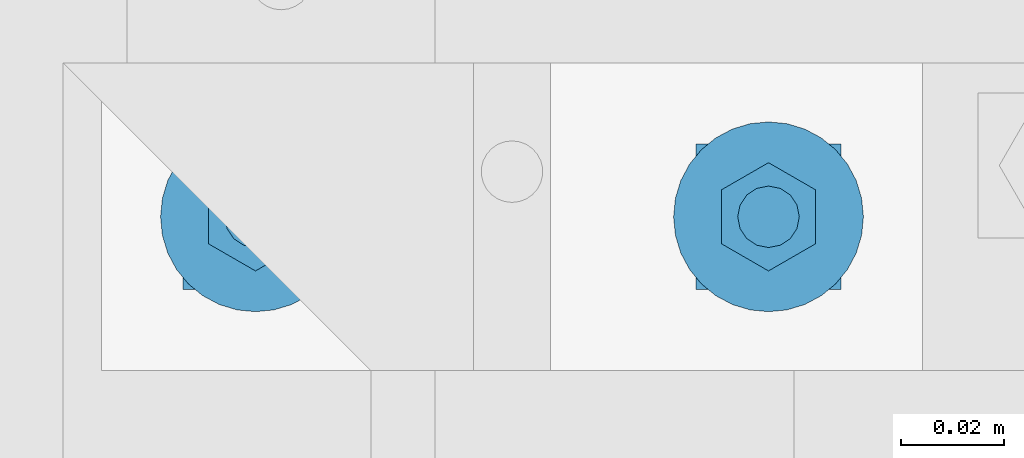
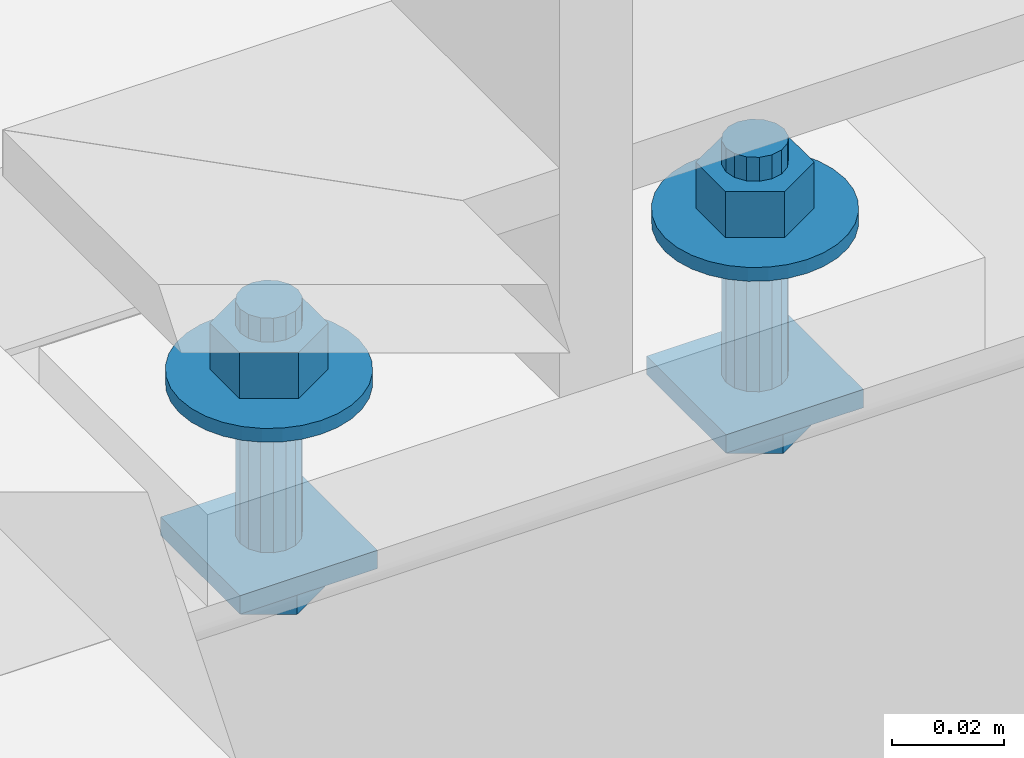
# One storey, part 293 of 825: 1 mechanical fastener.
"""IFC2X3 building model written with IfcOpenShell, lengths in millimetres."""

import ifcopenshell
import ifcopenshell.guid

model = None  # the IFC model being written
_history = None  # IfcOwnerHistory: only IFC2X3 demands one
_inside = {}  # id of a spatial element -> (the spatial element, [elements in it])
_under = {}  # id of a project, library or spatial element -> (it, [spatial elements below it])
_declared = {}  # id of a project -> (the project, [libraries it declares])
_typed = {}  # id of a type object -> (the type object, [elements of that type])
_made_of = {}  # id of a material, layer set ... -> (it, [elements and type objects made of it])


def new_model(schema):
    """Start an empty IFC model of exactly this schema.

    Asked for "IFC4X3", IfcOpenShell would pick the latest addendum, in which some entities
    have other attributes; the version numbers below select the first issue.
    IFC2X3 requires an IfcOwnerHistory on every rooted entity: one is made here for all.
    """
    global model, _history
    if schema == "IFC4X3":
        model = ifcopenshell.file(schema_version=(4, 3, 0, 0))
    else:
        model = ifcopenshell.file(schema=schema)
    _inside.clear()
    _under.clear()
    _declared.clear()
    _typed.clear()
    _made_of.clear()
    _history = None
    if model.schema == "IFC2X3":
        org = make("IfcOrganization", Name="unknown")
        user = make(
            "IfcPersonAndOrganization",
            ThePerson=make("IfcPerson", FamilyName="unknown"),
            TheOrganization=org,
        )
        app = make(
            "IfcApplication",
            ApplicationDeveloper=org,
            Version="unknown",
            ApplicationFullName="unknown",
            ApplicationIdentifier="unknown",
        )
        _history = make(
            "IfcOwnerHistory",
            OwningUser=user,
            OwningApplication=app,
            ChangeAction="ADDED",
            CreationDate=0,
        )
    return model


def make(cls, **values):
    """One entity of the class cls with the attributes given. An attribute that is None is left unset."""
    return model.create_entity(
        cls, **{name: value for name, value in values.items() if value is not None}
    )


def entity(cls, *values):
    """Any entity or typed value of the class cls, its attributes in the order of the schema. None: left unset."""
    e = model.create_entity(cls)
    for i, value in enumerate(values):
        if value is not None:
            e[i] = value
    return e


def rooted(cls, **values):
    """An entity with a GlobalId (a new one), such as an element, a storey or a relation."""
    return make(cls, GlobalId=ifcopenshell.guid.new(), OwnerHistory=_history, **values)


def si_unit(unit_type, name, prefix=None):
    """IfcSIUnit, for example si_unit("LENGTHUNIT", "METRE", prefix="MILLI")."""
    return make("IfcSIUnit", UnitType=unit_type, Prefix=prefix, Name=name)


def converted_unit(unit_type, name, factor, base, dimensions=None, offset=None):
    """IfcConversionBasedUnit, such as the inch: factor (a typed value) times the base unit."""
    return make(
        "IfcConversionBasedUnit"
        if offset is None
        else "IfcConversionBasedUnitWithOffset",
        ConversionOffset=offset,
        Dimensions=None
        if dimensions is None
        else entity("IfcDimensionalExponents", *dimensions),
        UnitType=unit_type,
        Name=name,
        ConversionFactor=make(
            "IfcMeasureWithUnit", ValueComponent=factor, UnitComponent=base
        ),
    )


def assignment(units):
    """IfcUnitAssignment: the units of a project."""
    return None if units is None else make("IfcUnitAssignment", Units=units)


def point(xyz):
    """IfcCartesianPoint."""
    return None if xyz is None else make("IfcCartesianPoint", Coordinates=xyz)


def direction(xyz):
    """IfcDirection."""
    return None if xyz is None else make("IfcDirection", DirectionRatios=xyz)


def frame(location, z_axis=None, x_axis=None):
    """IfcAxis2Placement3D, a coordinate frame: its origin and axes. An axis left out is left unset."""
    return make(
        "IfcAxis2Placement3D",
        Location=point(location),
        Axis=direction(z_axis),
        RefDirection=direction(x_axis),
    )


def origin_with_axes():
    """The frame at (0, 0, 0) with the z axis (0, 0, 1) and the x axis (1, 0, 0) written out."""
    return frame((0.0, 0.0, 0.0), z_axis=(0.0, 0.0, 1.0), x_axis=(1.0, 0.0, 0.0))


def place(relative_to, where):
    """IfcLocalPlacement: puts the frame where relative to a parent placement (None: the world)."""
    return make(
        "IfcLocalPlacement", PlacementRelTo=relative_to, RelativePlacement=where
    )


def context(
    kind, dimensions, precision=None, world=None, true_north=None, identifier=None
):
    """IfcGeometricRepresentationContext, for example the 3D "Model" context."""
    return make(
        "IfcGeometricRepresentationContext",
        ContextIdentifier=identifier,
        ContextType=kind,
        CoordinateSpaceDimension=dimensions,
        Precision=precision,
        WorldCoordinateSystem=world,
        TrueNorth=true_north,
    )


def project(units=None, contexts=None):
    """IfcProject with its units and contexts."""
    return rooted(
        "IfcProject",
        Name="project",
        RepresentationContexts=contexts,
        UnitsInContext=assignment(units),
    )


def spatial(cls, under=None, at=None, **own):
    """A site, building, storey or space (cls), placed at a placement, below another one or the project."""
    s = rooted(cls, ObjectPlacement=at, **own)
    if under is not None:
        _under.setdefault(under.id(), (under, []))[1].append(s)
    return s


def faces_of(points, faces, orient=None, outer=None):
    """IfcFace entities. A face is a list of loops; a loop is a list of indices into points, from 0.

    orient and outer hold one flag for each loop. By default every Orientation is true, the
    first loop of a face is its IfcFaceOuterBound and the others are IfcFaceBound.
    """
    made = []
    for i, loops in enumerate(faces):
        bounds = []
        for j, loop in enumerate(loops):
            is_outer = j == 0 if outer is None else outer[i][j]
            bounds.append(
                make(
                    "IfcFaceOuterBound" if is_outer else "IfcFaceBound",
                    Bound=make("IfcPolyLoop", Polygon=[points[k] for k in loop]),
                    Orientation=True if orient is None else orient[i][j],
                )
            )
        made.append(make("IfcFace", Bounds=bounds))
    return made


def faceted_brep(points, faces, orient=None, outer=None, voids=None):
    """IfcFacetedBrep: a solid bounded by flat faces; with voids (closed shells), ...WithVoids."""
    shared = [point(p) for p in points]
    hull = make("IfcClosedShell", CfsFaces=faces_of(shared, faces, orient, outer))
    if voids is None:
        return make("IfcFacetedBrep", Outer=hull)
    return make(
        "IfcFacetedBrepWithVoids",
        Outer=hull,
        Voids=[
            make(cls, CfsFaces=faces_of(shared, fs, o, b)) for cls, fs, o, b in voids
        ],
    )


def shape(context_of_items, identifier, shape_type, items):
    """IfcShapeRepresentation: the items that make up one representation, for example the "Body"."""
    return make(
        "IfcShapeRepresentation",
        ContextOfItems=context_of_items,
        RepresentationIdentifier=identifier,
        RepresentationType=shape_type,
        Items=items,
    )


def made_of(thing, what):
    """Note that an element or type object is made of a material, layer set ...; save() writes the relation."""
    if what is not None:
        _made_of.setdefault(what.id(), (what, []))[1].append(thing)
    return thing


def element(
    cls,
    number,
    at=None,
    inside=None,
    cuts=None,
    type_object=None,
    material=None,
    context=None,
    identifier="Body",
    shape_type=None,
    held_by="IfcProductDefinitionShape",
    body=None,
    shapes=None,
    **own,
):
    """One element of the class cls, such as IfcWall. Its Tag is "e" and its number.

    at: its placement. inside: the storey or other place that contains it. cuts: it is an
    opening in that element (IfcRelVoidsElement). A single representation is given by context,
    identifier, shape_type and body (its items); several are given by shapes. held_by: the class
    of the entity that holds the representations. save() writes the other relations.
    """
    e = rooted(cls, Tag="e%d" % number, ObjectPlacement=at, **own)
    if body is not None:
        shapes = [shape(context, identifier, shape_type, body)]
    if shapes is not None:
        e.Representation = make(held_by, Representations=shapes)
    if inside is not None:
        _inside.setdefault(inside.id(), (inside, []))[1].append(e)
    if cuts is not None:
        rooted(
            "IfcRelVoidsElement", RelatingBuildingElement=cuts, RelatedOpeningElement=e
        )
    if type_object is not None:
        _typed.setdefault(type_object.id(), (type_object, []))[1].append(e)
    return made_of(e, material)


def aggregate(whole, parts):
    """IfcRelAggregates: a whole, such as a stair, and the parts it consists of."""
    return rooted("IfcRelAggregates", RelatingObject=whole, RelatedObjects=parts)


def save(model, path):
    """Write the relations noted so far, then the file.

    IfcRelAggregates (storeys below a building ...), IfcRelContainedInSpatialStructure (elements
    in a storey), IfcRelDefinesByType, IfcRelAssociatesMaterial and IfcRelDeclares: one each for
    every whole, place, type object, material and project.
    """
    for whole, parts in _under.values():
        aggregate(whole, parts)
    for where, things in _inside.values():
        rooted(
            "IfcRelContainedInSpatialStructure",
            RelatedElements=things,
            RelatingStructure=where,
        )
    for kind, things in _typed.values():
        rooted("IfcRelDefinesByType", RelatedObjects=things, RelatingType=kind)
    for what, things in _made_of.values():
        rooted("IfcRelAssociatesMaterial", RelatedObjects=things, RelatingMaterial=what)
    for by, libraries in _declared.values():
        rooted("IfcRelDeclares", RelatingContext=by, RelatedDefinitions=libraries)
    model.write(path)


model = new_model("IFC2X3")

# Units and contexts
model_context = context("Model", 3, precision=1e-09, world=origin_with_axes())
ifc_project = project(units=[si_unit("LENGTHUNIT", "METRE", prefix="MILLI"), si_unit("AREAUNIT", "SQUARE_METRE"), si_unit("VOLUMEUNIT", "CUBIC_METRE"), converted_unit("PLANEANGLEUNIT", "DEGREE", entity("IfcPlaneAngleMeasure", 0.01745329), si_unit("PLANEANGLEUNIT", "RADIAN"), dimensions=[0, 0, 0, 0, 0, 0, 0])], contexts=[model_context])

# Site, building, storey
site_placement = place(None, origin_with_axes())
site = spatial("IfcSite", under=ifc_project, at=site_placement, Name="Cnopf'sche Kinderklinik", CompositionType="ELEMENT")
building_placement = place(site_placement, origin_with_axes())
building = spatial("IfcBuilding", under=site, at=building_placement, Name="Struktur 1", CompositionType="ELEMENT")
storey_placement = place(building_placement, origin_with_axes())
storey = spatial("IfcBuildingStorey", under=building, at=storey_placement, Name="Default Storey", CompositionType="ELEMENT", Elevation=0.0)

# Mechanical fastener
mechanical_fastener_placement = place(None, origin_with_axes())
element("IfcMechanicalFastener", 1, at=mechanical_fastener_placement, inside=storey, ObjectType="Bolt#500", NominalDiameter=12.0, NominalLength=55.0, context=model_context, shape_type="Brep", body=[
    faceted_brep([(4765.855538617, 6077.59483628, 7303.197311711), (4765.855538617, 6077.59483628, 7307.197311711), (4737.571267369, 6077.59483628, 7307.197311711), (4737.571267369, 6077.59483628, 7303.197311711), (4737.571267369, 6105.879107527, 7307.197311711), (4737.571267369, 6105.879107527, 7303.197311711), (4765.855538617, 6105.879107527, 7307.197311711), (4765.855538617, 6105.879107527, 7303.197311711)], [[[0, 1, 2, 3]], [[3, 2, 4, 5]], [[5, 4, 6, 7]], [[7, 6, 1, 0]], [[3, 5, 7, 0]], [[2, 1, 6, 4]]]),
    faceted_brep([(4665.855538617, 6077.59483628, 7303.197311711), (4665.855538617, 6077.59483628, 7307.197311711), (4637.571267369, 6077.59483628, 7307.197311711), (4637.571267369, 6077.59483628, 7303.197311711), (4637.571267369, 6105.879107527, 7307.197311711), (4637.571267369, 6105.879107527, 7303.197311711), (4665.855538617, 6105.879107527, 7307.197311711), (4665.855538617, 6105.879107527, 7303.197311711)], [[[0, 1, 2, 3]], [[3, 2, 4, 5]], [[5, 4, 6, 7]], [[7, 6, 1, 0]], [[3, 5, 7, 0]], [[2, 1, 6, 4]]]),
    faceted_brep([(4760.386647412, 6086.729471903, 7295.697311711), (4760.386647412, 6086.729471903, 7303.197311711), (4751.713402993, 6081.721971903, 7303.197311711), (4751.713402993, 6081.721971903, 7295.697311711), (4743.040158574, 6086.729471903, 7303.197311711), (4743.040158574, 6086.729471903, 7295.697311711), (4743.040158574, 6096.744471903, 7303.197311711), (4743.040158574, 6096.744471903, 7295.697311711), (4751.713402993, 6101.751971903, 7303.197311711), (4751.713402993, 6101.751971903, 7295.697311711), (4760.386647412, 6096.744471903, 7303.197311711), (4760.386647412, 6096.744471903, 7295.697311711)], [[[0, 1, 2, 3]], [[3, 2, 4, 5]], [[5, 4, 6, 7]], [[7, 6, 8, 9]], [[9, 8, 10, 11]], [[11, 10, 1, 0]], [[3, 5, 7, 9, 11, 0]], [[2, 1, 10, 8, 6, 4]]]),
    faceted_brep([(4660.386647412, 6086.729471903, 7295.697311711), (4660.386647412, 6086.729471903, 7303.197311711), (4651.713402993, 6081.721971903, 7303.197311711), (4651.713402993, 6081.721971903, 7295.697311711), (4643.040158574, 6086.729471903, 7303.197311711), (4643.040158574, 6086.729471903, 7295.697311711), (4643.040158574, 6096.744471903, 7303.197311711), (4643.040158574, 6096.744471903, 7295.697311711), (4651.713402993, 6101.751971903, 7303.197311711), (4651.713402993, 6101.751971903, 7295.697311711), (4660.386647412, 6096.744471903, 7303.197311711), (4660.386647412, 6096.744471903, 7295.697311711)], [[[0, 1, 2, 3]], [[3, 2, 4, 5]], [[5, 4, 6, 7]], [[7, 6, 8, 9]], [[9, 8, 10, 11]], [[11, 10, 1, 0]], [[3, 5, 7, 9, 11, 0]], [[2, 1, 10, 8, 6, 4]]]),
    faceted_brep([(4745.713402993, 6091.736971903, 7340.0), (4745.713402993, 6091.736971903, 7307.19731171), (4746.170125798, 6089.440871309, 7307.19731171), (4746.170125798, 6089.440871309, 7340.0), (4747.470762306, 6087.494331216, 7307.19731171), (4747.470762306, 6087.494331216, 7340.0), (4749.417302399, 6086.193694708, 7307.19731171), (4749.417302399, 6086.193694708, 7340.0), (4751.713402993, 6085.736971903, 7307.19731171), (4751.713402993, 6085.736971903, 7340.0), (4754.009503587, 6086.193694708, 7307.19731171), (4754.009503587, 6086.193694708, 7340.0), (4755.95604368, 6087.494331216, 7307.19731171), (4755.95604368, 6087.494331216, 7340.0), (4757.256680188, 6089.440871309, 7307.19731171), (4757.256680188, 6089.440871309, 7340.0), (4757.713402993, 6091.736971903, 7307.19731171), (4757.713402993, 6091.736971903, 7340.0), (4757.256680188, 6094.033072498, 7307.19731171), (4757.256680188, 6094.033072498, 7340.0), (4755.95604368, 6095.97961259, 7307.19731171), (4755.95604368, 6095.97961259, 7340.0), (4754.009503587, 6097.280249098, 7307.19731171), (4754.009503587, 6097.280249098, 7340.0), (4751.713402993, 6097.736971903, 7307.19731171), (4751.713402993, 6097.736971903, 7340.0), (4749.417302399, 6097.280249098, 7307.19731171), (4749.417302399, 6097.280249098, 7340.0), (4747.470762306, 6095.97961259, 7307.19731171), (4747.470762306, 6095.97961259, 7340.0), (4746.170125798, 6094.033072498, 7307.19731171), (4746.170125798, 6094.033072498, 7340.0)], [[[0, 1, 2, 3]], [[3, 2, 4, 5]], [[5, 4, 6, 7]], [[7, 6, 8, 9]], [[9, 8, 10, 11]], [[11, 10, 12, 13]], [[13, 12, 14, 15]], [[15, 14, 16, 17]], [[17, 16, 18, 19]], [[19, 18, 20, 21]], [[21, 20, 22, 23]], [[23, 22, 24, 25]], [[25, 24, 26, 27]], [[27, 26, 28, 29]], [[29, 28, 30, 31]], [[31, 30, 1, 0]], [[2, 1, 30, 28, 26, 24, 22, 20, 18, 16, 14, 12, 10, 8, 6, 4]], [[31, 0, 3, 5, 7, 9, 11, 13, 15, 17, 19, 21, 23, 25, 27, 29]]]),
    faceted_brep([(4645.713402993, 6091.736971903, 7340.0), (4645.713402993, 6091.736971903, 7307.19731171), (4646.170125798, 6089.440871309, 7307.19731171), (4646.170125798, 6089.440871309, 7340.0), (4647.470762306, 6087.494331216, 7307.19731171), (4647.470762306, 6087.494331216, 7340.0), (4649.417302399, 6086.193694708, 7307.19731171), (4649.417302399, 6086.193694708, 7340.0), (4651.713402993, 6085.736971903, 7307.19731171), (4651.713402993, 6085.736971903, 7340.0), (4654.009503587, 6086.193694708, 7307.19731171), (4654.009503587, 6086.193694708, 7340.0), (4655.95604368, 6087.494331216, 7307.19731171), (4655.95604368, 6087.494331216, 7340.0), (4657.256680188, 6089.440871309, 7307.19731171), (4657.256680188, 6089.440871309, 7340.0), (4657.713402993, 6091.736971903, 7307.19731171), (4657.713402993, 6091.736971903, 7340.0), (4657.256680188, 6094.033072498, 7307.19731171), (4657.256680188, 6094.033072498, 7340.0), (4655.95604368, 6095.97961259, 7307.19731171), (4655.95604368, 6095.97961259, 7340.0), (4654.009503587, 6097.280249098, 7307.19731171), (4654.009503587, 6097.280249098, 7340.0), (4651.713402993, 6097.736971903, 7307.19731171), (4651.713402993, 6097.736971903, 7340.0), (4649.417302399, 6097.280249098, 7307.19731171), (4649.417302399, 6097.280249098, 7340.0), (4647.470762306, 6095.97961259, 7307.19731171), (4647.470762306, 6095.97961259, 7340.0), (4646.170125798, 6094.033072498, 7307.19731171), (4646.170125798, 6094.033072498, 7340.0)], [[[0, 1, 2, 3]], [[3, 2, 4, 5]], [[5, 4, 6, 7]], [[7, 6, 8, 9]], [[9, 8, 10, 11]], [[11, 10, 12, 13]], [[13, 12, 14, 15]], [[15, 14, 16, 17]], [[17, 16, 18, 19]], [[19, 18, 20, 21]], [[21, 20, 22, 23]], [[23, 22, 24, 25]], [[25, 24, 26, 27]], [[27, 26, 28, 29]], [[29, 28, 30, 31]], [[31, 30, 1, 0]], [[2, 1, 30, 28, 26, 24, 22, 20, 18, 16, 14, 12, 10, 8, 6, 4]], [[31, 0, 3, 5, 7, 9, 11, 13, 15, 17, 19, 21, 23, 25, 27, 29]]]),
    faceted_brep([(4733.213402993, 6091.736971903, 7343.0), (4733.213402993, 6091.736971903, 7340.0), (4733.568875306, 6088.127800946, 7340.0), (4733.568875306, 6088.127800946, 7343.0), (4734.621631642, 6084.657328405, 7340.0), (4734.621631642, 6084.657328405, 7343.0), (4736.331215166, 6081.458922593, 7340.0), (4736.331215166, 6081.458922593, 7343.0), (4738.631927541, 6078.655496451, 7340.0), (4738.631927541, 6078.655496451, 7343.0), (4741.435353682, 6076.354784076, 7340.0), (4741.435353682, 6076.354784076, 7343.0), (4744.633759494, 6074.645200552, 7340.0), (4744.633759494, 6074.645200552, 7343.0), (4748.104232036, 6073.592444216, 7340.0), (4748.104232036, 6073.592444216, 7343.0), (4751.713402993, 6073.236971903, 7340.0), (4751.713402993, 6073.236971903, 7343.0), (4755.32257395, 6073.592444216, 7340.0), (4755.32257395, 6073.592444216, 7343.0), (4758.793046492, 6074.645200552, 7340.0), (4758.793046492, 6074.645200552, 7343.0), (4761.991452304, 6076.354784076, 7340.0), (4761.991452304, 6076.354784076, 7343.0), (4764.794878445, 6078.655496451, 7340.0), (4764.794878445, 6078.655496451, 7343.0), (4767.095590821, 6081.458922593, 7340.0), (4767.095590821, 6081.458922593, 7343.0), (4768.805174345, 6084.657328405, 7340.0), (4768.805174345, 6084.657328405, 7343.0), (4769.857930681, 6088.127800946, 7340.0), (4769.857930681, 6088.127800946, 7343.0), (4770.213402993, 6091.736971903, 7340.0), (4770.213402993, 6091.736971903, 7343.0), (4769.857930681, 6095.346142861, 7340.0), (4769.857930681, 6095.346142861, 7343.0), (4768.805174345, 6098.816615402, 7340.0), (4768.805174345, 6098.816615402, 7343.0), (4767.095590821, 6102.015021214, 7340.0), (4767.095590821, 6102.015021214, 7343.0), (4764.794878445, 6104.818447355, 7340.0), (4764.794878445, 6104.818447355, 7343.0), (4761.991452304, 6107.119159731, 7340.0), (4761.991452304, 6107.119159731, 7343.0), (4758.793046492, 6108.828743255, 7340.0), (4758.793046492, 6108.828743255, 7343.0), (4755.32257395, 6109.881499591, 7340.0), (4755.32257395, 6109.881499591, 7343.0), (4751.713402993, 6110.236971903, 7340.0), (4751.713402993, 6110.236971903, 7343.0), (4748.104232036, 6109.881499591, 7340.0), (4748.104232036, 6109.881499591, 7343.0), (4744.633759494, 6108.828743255, 7340.0), (4744.633759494, 6108.828743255, 7343.0), (4741.435353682, 6107.119159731, 7340.0), (4741.435353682, 6107.119159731, 7343.0), (4738.631927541, 6104.818447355, 7340.0), (4738.631927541, 6104.818447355, 7343.0), (4736.331215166, 6102.015021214, 7340.0), (4736.331215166, 6102.015021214, 7343.0), (4734.621631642, 6098.816615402, 7340.0), (4734.621631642, 6098.816615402, 7343.0), (4733.568875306, 6095.346142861, 7340.0), (4733.568875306, 6095.346142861, 7343.0)], [[[0, 1, 2, 3]], [[3, 2, 4, 5]], [[5, 4, 6, 7]], [[7, 6, 8, 9]], [[9, 8, 10, 11]], [[11, 10, 12, 13]], [[13, 12, 14, 15]], [[15, 14, 16, 17]], [[17, 16, 18, 19]], [[19, 18, 20, 21]], [[21, 20, 22, 23]], [[23, 22, 24, 25]], [[25, 24, 26, 27]], [[27, 26, 28, 29]], [[29, 28, 30, 31]], [[31, 30, 32, 33]], [[33, 32, 34, 35]], [[35, 34, 36, 37]], [[37, 36, 38, 39]], [[39, 38, 40, 41]], [[41, 40, 42, 43]], [[43, 42, 44, 45]], [[45, 44, 46, 47]], [[47, 46, 48, 49]], [[49, 48, 50, 51]], [[51, 50, 52, 53]], [[53, 52, 54, 55]], [[55, 54, 56, 57]], [[57, 56, 58, 59]], [[59, 58, 60, 61]], [[61, 60, 62, 63]], [[63, 62, 1, 0]], [[2, 1, 62, 60, 58, 56, 54, 52, 50, 48, 46, 44, 42, 40, 38, 36, 34, 32, 30, 28, 26, 24, 22, 20, 18, 16, 14, 12, 10, 8, 6, 4]], [[63, 0, 3, 5, 7, 9, 11, 13, 15, 17, 19, 21, 23, 25, 27, 29, 31, 33, 35, 37, 39, 41, 43, 45, 47, 49, 51, 53, 55, 57, 59, 61]]]),
    faceted_brep([(4633.213402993, 6091.736971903, 7343.0), (4633.213402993, 6091.736971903, 7340.0), (4633.568875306, 6088.127800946, 7340.0), (4633.568875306, 6088.127800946, 7343.0), (4634.621631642, 6084.657328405, 7340.0), (4634.621631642, 6084.657328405, 7343.0), (4636.331215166, 6081.458922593, 7340.0), (4636.331215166, 6081.458922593, 7343.0), (4638.631927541, 6078.655496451, 7340.0), (4638.631927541, 6078.655496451, 7343.0), (4641.435353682, 6076.354784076, 7340.0), (4641.435353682, 6076.354784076, 7343.0), (4644.633759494, 6074.645200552, 7340.0), (4644.633759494, 6074.645200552, 7343.0), (4648.104232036, 6073.592444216, 7340.0), (4648.104232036, 6073.592444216, 7343.0), (4651.713402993, 6073.236971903, 7340.0), (4651.713402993, 6073.236971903, 7343.0), (4655.32257395, 6073.592444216, 7340.0), (4655.32257395, 6073.592444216, 7343.0), (4658.793046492, 6074.645200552, 7340.0), (4658.793046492, 6074.645200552, 7343.0), (4661.991452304, 6076.354784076, 7340.0), (4661.991452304, 6076.354784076, 7343.0), (4664.794878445, 6078.655496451, 7340.0), (4664.794878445, 6078.655496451, 7343.0), (4667.095590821, 6081.458922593, 7340.0), (4667.095590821, 6081.458922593, 7343.0), (4668.805174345, 6084.657328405, 7340.0), (4668.805174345, 6084.657328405, 7343.0), (4669.857930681, 6088.127800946, 7340.0), (4669.857930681, 6088.127800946, 7343.0), (4670.213402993, 6091.736971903, 7340.0), (4670.213402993, 6091.736971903, 7343.0), (4669.857930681, 6095.346142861, 7340.0), (4669.857930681, 6095.346142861, 7343.0), (4668.805174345, 6098.816615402, 7340.0), (4668.805174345, 6098.816615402, 7343.0), (4667.095590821, 6102.015021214, 7340.0), (4667.095590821, 6102.015021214, 7343.0), (4664.794878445, 6104.818447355, 7340.0), (4664.794878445, 6104.818447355, 7343.0), (4661.991452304, 6107.119159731, 7340.0), (4661.991452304, 6107.119159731, 7343.0), (4658.793046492, 6108.828743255, 7340.0), (4658.793046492, 6108.828743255, 7343.0), (4655.32257395, 6109.881499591, 7340.0), (4655.32257395, 6109.881499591, 7343.0), (4651.713402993, 6110.236971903, 7340.0), (4651.713402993, 6110.236971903, 7343.0), (4648.104232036, 6109.881499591, 7340.0), (4648.104232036, 6109.881499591, 7343.0), (4644.633759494, 6108.828743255, 7340.0), (4644.633759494, 6108.828743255, 7343.0), (4641.435353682, 6107.119159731, 7340.0), (4641.435353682, 6107.119159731, 7343.0), (4638.631927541, 6104.818447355, 7340.0), (4638.631927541, 6104.818447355, 7343.0), (4636.331215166, 6102.015021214, 7340.0), (4636.331215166, 6102.015021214, 7343.0), (4634.621631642, 6098.816615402, 7340.0), (4634.621631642, 6098.816615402, 7343.0), (4633.568875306, 6095.346142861, 7340.0), (4633.568875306, 6095.346142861, 7343.0)], [[[0, 1, 2, 3]], [[3, 2, 4, 5]], [[5, 4, 6, 7]], [[7, 6, 8, 9]], [[9, 8, 10, 11]], [[11, 10, 12, 13]], [[13, 12, 14, 15]], [[15, 14, 16, 17]], [[17, 16, 18, 19]], [[19, 18, 20, 21]], [[21, 20, 22, 23]], [[23, 22, 24, 25]], [[25, 24, 26, 27]], [[27, 26, 28, 29]], [[29, 28, 30, 31]], [[31, 30, 32, 33]], [[33, 32, 34, 35]], [[35, 34, 36, 37]], [[37, 36, 38, 39]], [[39, 38, 40, 41]], [[41, 40, 42, 43]], [[43, 42, 44, 45]], [[45, 44, 46, 47]], [[47, 46, 48, 49]], [[49, 48, 50, 51]], [[51, 50, 52, 53]], [[53, 52, 54, 55]], [[55, 54, 56, 57]], [[57, 56, 58, 59]], [[59, 58, 60, 61]], [[61, 60, 62, 63]], [[63, 62, 1, 0]], [[2, 1, 62, 60, 58, 56, 54, 52, 50, 48, 46, 44, 42, 40, 38, 36, 34, 32, 30, 28, 26, 24, 22, 20, 18, 16, 14, 12, 10, 8, 6, 4]], [[63, 0, 3, 5, 7, 9, 11, 13, 15, 17, 19, 21, 23, 25, 27, 29, 31, 33, 35, 37, 39, 41, 43, 45, 47, 49, 51, 53, 55, 57, 59, 61]]]),
    faceted_brep([(4760.849971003, 6086.461971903, 7343.0), (4760.849971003, 6086.461971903, 7353.0), (4751.713402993, 6081.186971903, 7353.0), (4751.713402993, 6081.186971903, 7343.0), (4742.576834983, 6086.461971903, 7353.0), (4742.576834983, 6086.461971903, 7343.0), (4742.576834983, 6097.011971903, 7353.0), (4742.576834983, 6097.011971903, 7343.0), (4751.713402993, 6102.286971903, 7353.0), (4751.713402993, 6102.286971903, 7343.0), (4760.849971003, 6097.011971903, 7353.0), (4760.849971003, 6097.011971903, 7343.0)], [[[0, 1, 2, 3]], [[3, 2, 4, 5]], [[5, 4, 6, 7]], [[7, 6, 8, 9]], [[9, 8, 10, 11]], [[11, 10, 1, 0]], [[3, 5, 7, 9, 11, 0]], [[2, 1, 10, 8, 6, 4]]]),
    faceted_brep([(4660.849971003, 6086.461971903, 7343.0), (4660.849971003, 6086.461971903, 7353.0), (4651.713402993, 6081.186971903, 7353.0), (4651.713402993, 6081.186971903, 7343.0), (4642.576834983, 6086.461971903, 7353.0), (4642.576834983, 6086.461971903, 7343.0), (4642.576834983, 6097.011971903, 7353.0), (4642.576834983, 6097.011971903, 7343.0), (4651.713402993, 6102.286971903, 7353.0), (4651.713402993, 6102.286971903, 7343.0), (4660.849971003, 6097.011971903, 7353.0), (4660.849971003, 6097.011971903, 7343.0)], [[[0, 1, 2, 3]], [[3, 2, 4, 5]], [[5, 4, 6, 7]], [[7, 6, 8, 9]], [[9, 8, 10, 11]], [[11, 10, 1, 0]], [[3, 5, 7, 9, 11, 0]], [[2, 1, 10, 8, 6, 4]]]),
    faceted_brep([(4745.713402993, 6091.736971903, 7358.197311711), (4745.713402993, 6091.736971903, 7353.000000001), (4746.170125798, 6089.440871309, 7353.000000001), (4746.170125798, 6089.440871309, 7358.197311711), (4747.470762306, 6087.494331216, 7353.000000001), (4747.470762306, 6087.494331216, 7358.197311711), (4749.417302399, 6086.193694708, 7353.000000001), (4749.417302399, 6086.193694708, 7358.197311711), (4751.713402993, 6085.736971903, 7353.000000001), (4751.713402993, 6085.736971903, 7358.197311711), (4754.009503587, 6086.193694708, 7353.000000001), (4754.009503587, 6086.193694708, 7358.197311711), (4755.95604368, 6087.494331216, 7353.000000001), (4755.95604368, 6087.494331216, 7358.197311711), (4757.256680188, 6089.440871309, 7353.000000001), (4757.256680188, 6089.440871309, 7358.197311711), (4757.713402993, 6091.736971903, 7353.000000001), (4757.713402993, 6091.736971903, 7358.197311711), (4757.256680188, 6094.033072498, 7353.000000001), (4757.256680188, 6094.033072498, 7358.197311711), (4755.95604368, 6095.97961259, 7353.000000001), (4755.95604368, 6095.97961259, 7358.197311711), (4754.009503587, 6097.280249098, 7353.000000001), (4754.009503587, 6097.280249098, 7358.197311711), (4751.713402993, 6097.736971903, 7353.000000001), (4751.713402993, 6097.736971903, 7358.197311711), (4749.417302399, 6097.280249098, 7353.000000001), (4749.417302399, 6097.280249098, 7358.197311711), (4747.470762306, 6095.97961259, 7353.000000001), (4747.470762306, 6095.97961259, 7358.197311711), (4746.170125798, 6094.033072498, 7353.000000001), (4746.170125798, 6094.033072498, 7358.197311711)], [[[0, 1, 2, 3]], [[3, 2, 4, 5]], [[5, 4, 6, 7]], [[7, 6, 8, 9]], [[9, 8, 10, 11]], [[11, 10, 12, 13]], [[13, 12, 14, 15]], [[15, 14, 16, 17]], [[17, 16, 18, 19]], [[19, 18, 20, 21]], [[21, 20, 22, 23]], [[23, 22, 24, 25]], [[25, 24, 26, 27]], [[27, 26, 28, 29]], [[29, 28, 30, 31]], [[31, 30, 1, 0]], [[2, 1, 30, 28, 26, 24, 22, 20, 18, 16, 14, 12, 10, 8, 6, 4]], [[31, 0, 3, 5, 7, 9, 11, 13, 15, 17, 19, 21, 23, 25, 27, 29]]]),
    faceted_brep([(4645.713402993, 6091.736971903, 7358.197311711), (4645.713402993, 6091.736971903, 7353.000000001), (4646.170125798, 6089.440871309, 7353.000000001), (4646.170125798, 6089.440871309, 7358.197311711), (4647.470762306, 6087.494331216, 7353.000000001), (4647.470762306, 6087.494331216, 7358.197311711), (4649.417302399, 6086.193694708, 7353.000000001), (4649.417302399, 6086.193694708, 7358.197311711), (4651.713402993, 6085.736971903, 7353.000000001), (4651.713402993, 6085.736971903, 7358.197311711), (4654.009503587, 6086.193694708, 7353.000000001), (4654.009503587, 6086.193694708, 7358.197311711), (4655.95604368, 6087.494331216, 7353.000000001), (4655.95604368, 6087.494331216, 7358.197311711), (4657.256680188, 6089.440871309, 7353.000000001), (4657.256680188, 6089.440871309, 7358.197311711), (4657.713402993, 6091.736971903, 7353.000000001), (4657.713402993, 6091.736971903, 7358.197311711), (4657.256680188, 6094.033072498, 7353.000000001), (4657.256680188, 6094.033072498, 7358.197311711), (4655.95604368, 6095.97961259, 7353.000000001), (4655.95604368, 6095.97961259, 7358.197311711), (4654.009503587, 6097.280249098, 7353.000000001), (4654.009503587, 6097.280249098, 7358.197311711), (4651.713402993, 6097.736971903, 7353.000000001), (4651.713402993, 6097.736971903, 7358.197311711), (4649.417302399, 6097.280249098, 7353.000000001), (4649.417302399, 6097.280249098, 7358.197311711), (4647.470762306, 6095.97961259, 7353.000000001), (4647.470762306, 6095.97961259, 7358.197311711), (4646.170125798, 6094.033072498, 7353.000000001), (4646.170125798, 6094.033072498, 7358.197311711)], [[[0, 1, 2, 3]], [[3, 2, 4, 5]], [[5, 4, 6, 7]], [[7, 6, 8, 9]], [[9, 8, 10, 11]], [[11, 10, 12, 13]], [[13, 12, 14, 15]], [[15, 14, 16, 17]], [[17, 16, 18, 19]], [[19, 18, 20, 21]], [[21, 20, 22, 23]], [[23, 22, 24, 25]], [[25, 24, 26, 27]], [[27, 26, 28, 29]], [[29, 28, 30, 31]], [[31, 30, 1, 0]], [[2, 1, 30, 28, 26, 24, 22, 20, 18, 16, 14, 12, 10, 8, 6, 4]], [[31, 0, 3, 5, 7, 9, 11, 13, 15, 17, 19, 21, 23, 25, 27, 29]]]),
])

save(model, "model.ifc")
